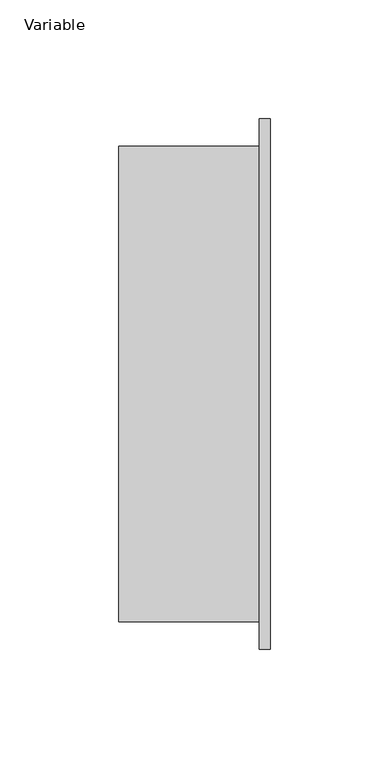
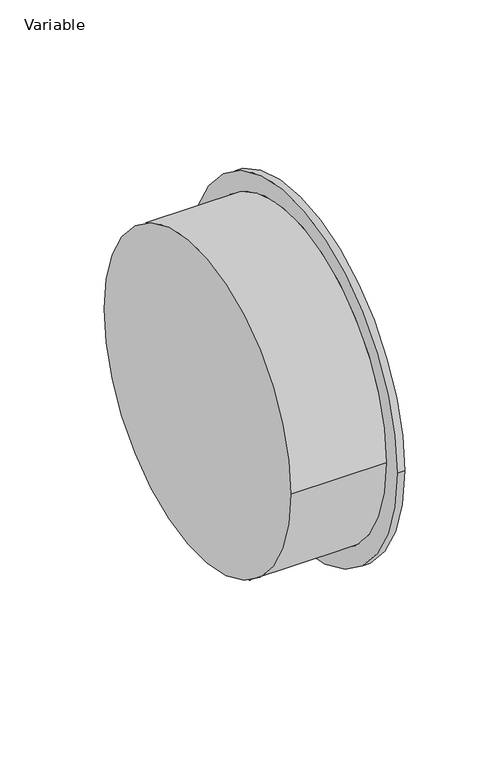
"""IFC4 building model written with IfcOpenShell, lengths in millimetres: pipe fitting geometry, AliaxisFR_Friaphon_Cap_FR : Variable."""

from ifc_helpers import new_model, si_unit, frame, origin, place, context, project, spatial, circle_curve, source, transform, mapped, element, save
from ifc_brep_helpers import plane_surface, cylinder_surface, advanced_brep


def variable_34d79cbe(model_context):
    return source(origin(), model_context, "Body", "AdvancedBrep", [
        advanced_brep(
        [(49.0, -100.0, 0.0), (49.0, 100.0, 0.0), (112.6, -111.5, 0.0), (112.6, 111.5, 0.0), (108.0, -111.5, 0.0), (108.0, 111.5, 0.0), (108.0, -100.0, 0.0), (108.0, 100.0, 0.0)],
        [
            (0, 1, circle_curve(frame((49.0, 0.0, 0.0), z_axis=(-1.0, 0.0, 0.0), x_axis=(0.0, 1.0, 0.0)), 100.0)),
            (1, 0, circle_curve(frame((49.0, 0.0, 0.0), z_axis=(-1.0, 0.0, 0.0), x_axis=(0.0, 1.0, 0.0)), 100.0)),
            (2, 3, circle_curve(frame((112.6, 0.0, 0.0), z_axis=(1.0, 0.0, 0.0), x_axis=(0.0, 1.0, 0.0)), 111.5)),
            (3, 2, circle_curve(frame((112.6, 0.0, 0.0), z_axis=(1.0, 0.0, 0.0), x_axis=(0.0, 1.0, 0.0)), 111.5)),
            (4, 5, circle_curve(frame((108.0, 0.0, 0.0), z_axis=(-1.0, 0.0, 0.0), x_axis=(0.0, 1.0, 0.0)), 111.5)),
            (5, 4, circle_curve(frame((108.0, 0.0, 0.0), z_axis=(-1.0, 0.0, 0.0), x_axis=(0.0, 1.0, 0.0)), 111.5)),
            (6, 7, circle_curve(frame((108.0, 0.0, 0.0), z_axis=(1.0, 0.0, 0.0), x_axis=(0.0, 1.0, 0.0)), 100.0)),
            (7, 6, circle_curve(frame((108.0, 0.0, 0.0), z_axis=(1.0, 0.0, 0.0), x_axis=(0.0, 1.0, 0.0)), 100.0)),
            (2, 4),
            (5, 3),
            (1, 7),
            (6, 0),
        ],
        [
            plane_surface(frame((49.0, 100.0, 0.0), z_axis=(-1.0, 0.0, 0.0), x_axis=(0.0, 0.0, -1.0))),
            plane_surface(frame((112.6, 111.5, 0.0), z_axis=(1.0, 0.0, 0.0), x_axis=(0.0, 0.0, 1.0))),
            plane_surface(frame((108.0, 111.5, 0.0), z_axis=(-1.0, 0.0, 0.0), x_axis=(0.0, 0.0, -1.0))),
            cylinder_surface(frame((108.0, 0.0, 0.0), z_axis=(1.0, 0.0, 0.0), x_axis=(0.0, 1.0, 0.0)), 111.5),
            cylinder_surface(frame((49.0, 0.0, 0.0), z_axis=(1.0, 0.0, 0.0), x_axis=(0.0, 1.0, 0.0)), 100.0),
        ],
        [
            (0, [[1, 2]]),
            (1, [[3, 4]]),
            (2, [[5, 6], [7, 8]]),
            (3, [[-3, 9, -6, 10]]),
            (3, [[-4, -10, -5, -9]]),
            (4, [[-2, 11, -7, 12]]),
            (4, [[-1, -12, -8, -11]]),
        ],
    ),
    ])


if __name__ == "__main__":
    model = new_model("IFC4")
    model_context = context("Model", 3, world=origin())
    ifc_project = project(units=[si_unit("LENGTHUNIT", "METRE", prefix="MILLI")], contexts=[model_context])
    site = spatial("IfcSite", under=ifc_project)
    building = spatial("IfcBuilding", under=site)
    placement = place(None, origin())
    variable_shape = variable_34d79cbe(model_context)
    element("IfcPipeFitting", 1, ObjectType="AliaxisFR_Friaphon_Cap_FR : Variable", at=placement, inside=building, context=model_context, shape_type="MappedRepresentation", body=[
        mapped(variable_shape, transform((0.0, 0.0, 0.0), x_axis=(1.0, 0.0, 0.0), y_axis=(0.0, 1.0, 0.0), z_axis=(0.0, 0.0, 1.0))),
    ])
    save(model, "model.ifc")
